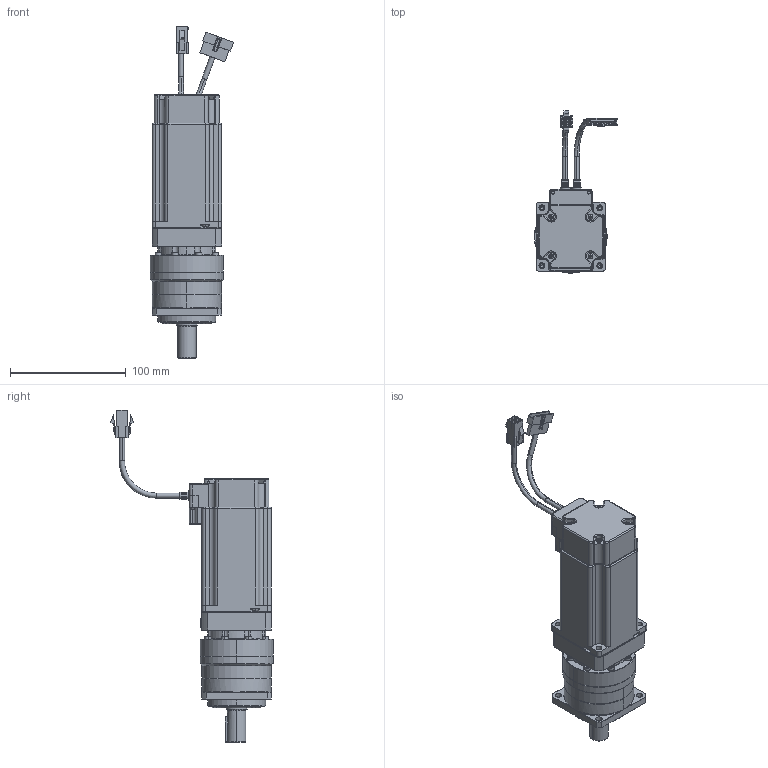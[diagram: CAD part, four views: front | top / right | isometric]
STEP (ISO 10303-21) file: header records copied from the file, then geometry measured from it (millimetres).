
FILE_DESCRIPTION (( 'STEP AP203' ), '1' );
FILE_NAME ('130416 Ezi-SERVO PG-ST-60L-PN3~10.STEP', '2013-04-16T08:31:48', ( '' ), ( '' ), 'SwSTEP 2.0', 'SolidWorks 2012', '' );
FILE_SCHEMA (( 'CONFIG_CONTROL_DESIGN' ));
Products named in the file (15): 130416 Ezi-SERVO PG-ST-60L-PN3~10; ST56 1ST; MainEzM-60L-assembly-1; MainM3-screw12-1; MainM3-screw11-1; MainM3-screw10-1; MainM3-screw9-1; MainM3-screw8-1; MainM3-screw7-1; Main60_Encoder_Plate-1; MainEZSV_60_Encoder_Cover-1; MainEZSV_60_Cable_Cover-1; MainEncoder_Cable_60-1; MainPower_Cable_60-1; MainEzM-60L-1
Assembly tree (14 placements, depth 3):
  130416 Ezi-SERVO PG-ST-60L-PN3~10
    MainEzM-60L-assembly-1
      MainEzM-60L-1
      MainPower_Cable_60-1
      MainEncoder_Cable_60-1
      MainEZSV_60_Cable_Cover-1
      MainEZSV_60_Encoder_Cover-1
      Main60_Encoder_Plate-1
      MainM3-screw7-1
      MainM3-screw8-1
      MainM3-screw9-1
      MainM3-screw10-1
      MainM3-screw11-1
      MainM3-screw12-1
    ST56 1ST
Bounding box: 71.99 x 140.14 x 287 mm (x, y, z)
Volume: 551580.7 mm3; surface area: 99028.7 mm2
Topology: 13 solids, 13 shells, 1455 faces, 3798 edges, 2405 vertices
Faces by surface type: plane 712, cylinder 483, cone 118, torus 61, bspline 57, sphere 24
Entity records: 49732 total; most frequent: CARTESIAN_POINT 13074, ORIENTED_EDGE 7396, DIRECTION 7235, EDGE_CURVE 3698, AXIS2_PLACEMENT_3D 2660, VERTEX_POINT 2385, LINE 1915, VECTOR 1915
